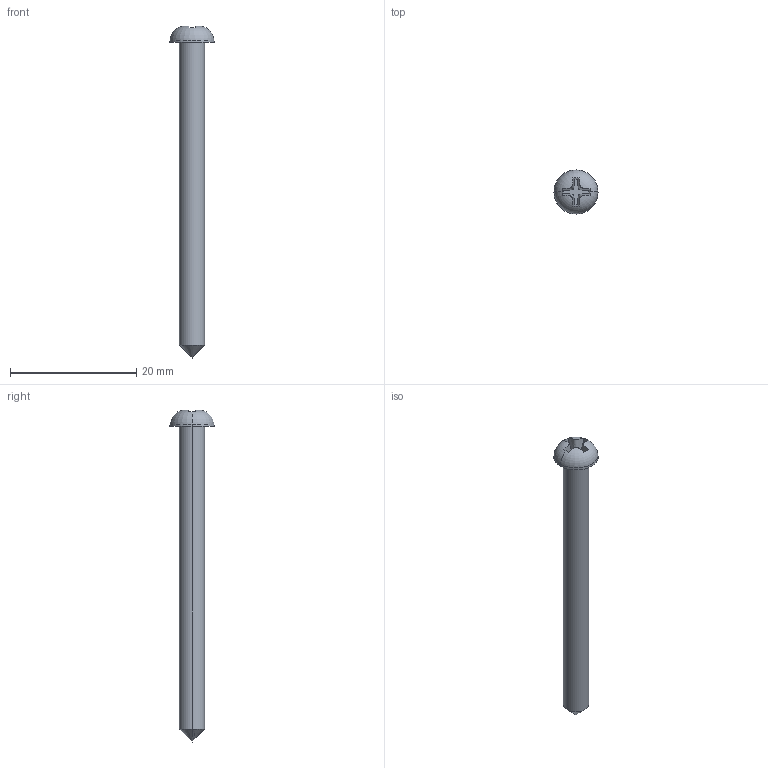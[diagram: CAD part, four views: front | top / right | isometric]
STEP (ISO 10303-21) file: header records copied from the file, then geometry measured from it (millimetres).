
FILE_DESCRIPTION (( 'STEP AP214' ), '1' );
FILE_NAME ('SCREW M4 X50 MM.STEP', '2024-06-18T02:15:29', ( '' ), ( '' ), 'SwSTEP 2.0', 'SolidWorks 2023', '' );
FILE_SCHEMA (( 'AUTOMOTIVE_DESIGN' ));
Length unit declared in the file: millimetre
Products named in the file (1): SCREW M4 X50 MM
Bounding box: 7 x 7 x 52.6 mm (x, y, z)
Volume: 673.6 mm3; surface area: 743.2 mm2
Topology: 1 solids, 1 shells, 20 faces, 58 edges, 39 vertices
Faces by surface type: plane 8, cone 4, bspline 4, torus 2, cylinder 2
Entity records: 875 total; most frequent: CARTESIAN_POINT 352, ORIENTED_EDGE 112, DIRECTION 92, EDGE_CURVE 56, VERTEX_POINT 39, AXIS2_PLACEMENT_3D 33, VECTOR 26, LINE 26
